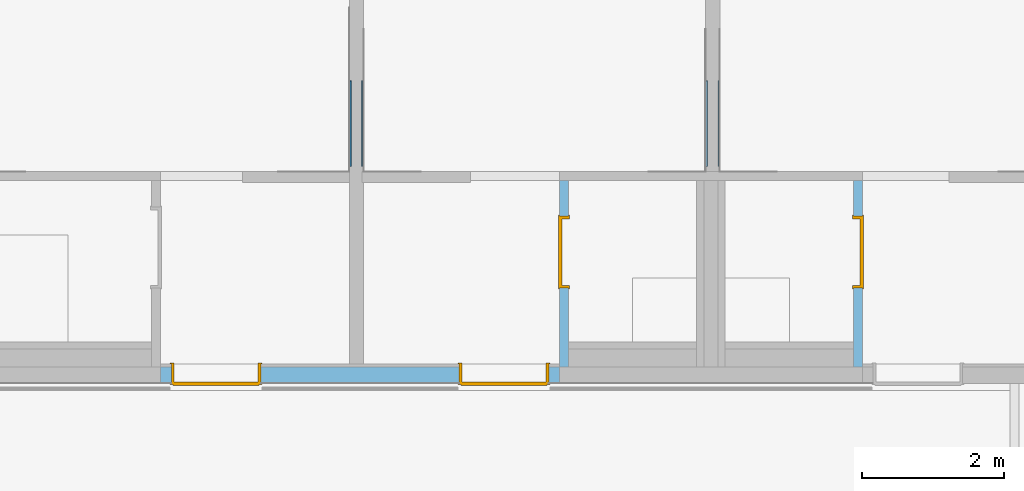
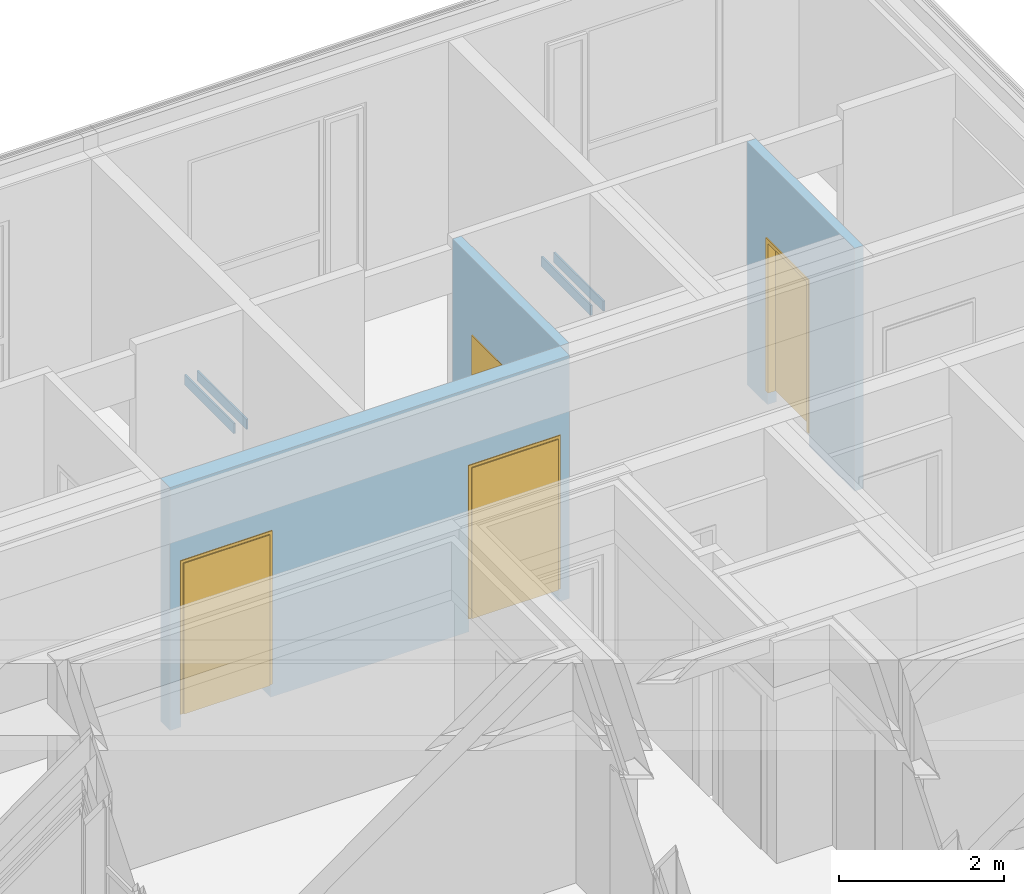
# One storey, part 150 of 207: 4 doors, 4 walls, 4 openings, plus 3 elements that do not belong to this part.
"""IFC4 building model written with IfcOpenShell, lengths in metres."""

import ifcopenshell
import ifcopenshell.guid

model = None  # the IFC model being written
_history = None  # IfcOwnerHistory: only IFC2X3 demands one
_inside = {}  # id of a spatial element -> (the spatial element, [elements in it])
_under = {}  # id of a project, library or spatial element -> (it, [spatial elements below it])
_declared = {}  # id of a project -> (the project, [libraries it declares])
_typed = {}  # id of a type object -> (the type object, [elements of that type])
_made_of = {}  # id of a material, layer set ... -> (it, [elements and type objects made of it])


def new_model(schema):
    """Start an empty IFC model of exactly this schema.

    Asked for "IFC4X3", IfcOpenShell would pick the latest addendum, in which some entities
    have other attributes; the version numbers below select the first issue.
    IFC2X3 requires an IfcOwnerHistory on every rooted entity: one is made here for all.
    """
    global model, _history
    if schema == "IFC4X3":
        model = ifcopenshell.file(schema_version=(4, 3, 0, 0))
    else:
        model = ifcopenshell.file(schema=schema)
    _inside.clear()
    _under.clear()
    _declared.clear()
    _typed.clear()
    _made_of.clear()
    _history = None
    if model.schema == "IFC2X3":
        org = make("IfcOrganization", Name="unknown")
        user = make(
            "IfcPersonAndOrganization",
            ThePerson=make("IfcPerson", FamilyName="unknown"),
            TheOrganization=org,
        )
        app = make(
            "IfcApplication",
            ApplicationDeveloper=org,
            Version="unknown",
            ApplicationFullName="unknown",
            ApplicationIdentifier="unknown",
        )
        _history = make(
            "IfcOwnerHistory",
            OwningUser=user,
            OwningApplication=app,
            ChangeAction="ADDED",
            CreationDate=0,
        )
    return model


def make(cls, **values):
    """One entity of the class cls with the attributes given. An attribute that is None is left unset."""
    return model.create_entity(
        cls, **{name: value for name, value in values.items() if value is not None}
    )


def entity(cls, *values):
    """Any entity or typed value of the class cls, its attributes in the order of the schema. None: left unset."""
    e = model.create_entity(cls)
    for i, value in enumerate(values):
        if value is not None:
            e[i] = value
    return e


def rooted(cls, **values):
    """An entity with a GlobalId (a new one), such as an element, a storey or a relation."""
    return make(cls, GlobalId=ifcopenshell.guid.new(), OwnerHistory=_history, **values)


def si_unit(unit_type, name, prefix=None):
    """IfcSIUnit, for example si_unit("LENGTHUNIT", "METRE", prefix="MILLI")."""
    return make("IfcSIUnit", UnitType=unit_type, Prefix=prefix, Name=name)


def converted_unit(unit_type, name, factor, base, dimensions=None, offset=None):
    """IfcConversionBasedUnit, such as the inch: factor (a typed value) times the base unit."""
    return make(
        "IfcConversionBasedUnit"
        if offset is None
        else "IfcConversionBasedUnitWithOffset",
        ConversionOffset=offset,
        Dimensions=None
        if dimensions is None
        else entity("IfcDimensionalExponents", *dimensions),
        UnitType=unit_type,
        Name=name,
        ConversionFactor=make(
            "IfcMeasureWithUnit", ValueComponent=factor, UnitComponent=base
        ),
    )


def derived_unit(unit_type, elements):
    """IfcDerivedUnit: a product of units, each with its exponent."""
    return make(
        "IfcDerivedUnit",
        Elements=[
            make("IfcDerivedUnitElement", Unit=unit, Exponent=power)
            for unit, power in elements
        ],
        UnitType=unit_type,
    )


def assignment(units):
    """IfcUnitAssignment: the units of a project."""
    return None if units is None else make("IfcUnitAssignment", Units=units)


def point(xyz):
    """IfcCartesianPoint."""
    return None if xyz is None else make("IfcCartesianPoint", Coordinates=xyz)


def direction(xyz):
    """IfcDirection."""
    return None if xyz is None else make("IfcDirection", DirectionRatios=xyz)


def frame(location, z_axis=None, x_axis=None):
    """IfcAxis2Placement3D, a coordinate frame: its origin and axes. An axis left out is left unset."""
    return make(
        "IfcAxis2Placement3D",
        Location=point(location),
        Axis=direction(z_axis),
        RefDirection=direction(x_axis),
    )


def frame_2d(location, x_axis=None):
    """IfcAxis2Placement2D, a coordinate frame in the plane: its origin and x axis."""
    return make(
        "IfcAxis2Placement2D", Location=point(location), RefDirection=direction(x_axis)
    )


def origin():
    """The frame at (0, 0, 0) with its axes left unset."""
    return frame((0.0, 0.0, 0.0))


def origin_with_axes():
    """The frame at (0, 0, 0) with the z axis (0, 0, 1) and the x axis (1, 0, 0) written out."""
    return frame((0.0, 0.0, 0.0), z_axis=(0.0, 0.0, 1.0), x_axis=(1.0, 0.0, 0.0))


def place(relative_to, where):
    """IfcLocalPlacement: puts the frame where relative to a parent placement (None: the world)."""
    return make(
        "IfcLocalPlacement", PlacementRelTo=relative_to, RelativePlacement=where
    )


def context(
    kind, dimensions, precision=None, world=None, true_north=None, identifier=None
):
    """IfcGeometricRepresentationContext, for example the 3D "Model" context."""
    return make(
        "IfcGeometricRepresentationContext",
        ContextIdentifier=identifier,
        ContextType=kind,
        CoordinateSpaceDimension=dimensions,
        Precision=precision,
        WorldCoordinateSystem=world,
        TrueNorth=true_north,
    )


def subcontext(parent, identifier, kind, view, scale=None):
    """IfcGeometricRepresentationSubContext, for example "Body" below "Model"."""
    return make(
        "IfcGeometricRepresentationSubContext",
        ContextIdentifier=identifier,
        ContextType=kind,
        ParentContext=parent,
        TargetScale=scale,
        TargetView=view,
    )


def project(units=None, contexts=None):
    """IfcProject with its units and contexts."""
    return rooted(
        "IfcProject",
        Name="project",
        RepresentationContexts=contexts,
        UnitsInContext=assignment(units),
    )


def spatial(cls, under=None, at=None, **own):
    """A site, building, storey or space (cls), placed at a placement, below another one or the project."""
    s = rooted(cls, ObjectPlacement=at, **own)
    if under is not None:
        _under.setdefault(under.id(), (under, []))[1].append(s)
    return s


def polyline(points):
    """IfcPolyline through the points."""
    return make("IfcPolyline", Points=[point(p) for p in points])


def profile(cls, at=None, kind="AREA", **sizes):
    """A parametric profile (cls). Its sizes go by their IFC names, for example OverallWidth=200.0."""
    return make(cls, ProfileType=kind, Position=at, **sizes)


def rectangle(**sizes):
    """IfcRectangleProfileDef."""
    return profile("IfcRectangleProfileDef", **sizes)


def outline(outer, holes=None, kind="AREA"):
    """IfcArbitraryClosedProfileDef: a profile drawn as a closed curve; with holes, ...WithVoids."""
    if holes is None:
        return make("IfcArbitraryClosedProfileDef", ProfileType=kind, OuterCurve=outer)
    return make(
        "IfcArbitraryProfileDefWithVoids",
        ProfileType=kind,
        OuterCurve=outer,
        InnerCurves=holes,
    )


def extrude(swept, where, along, depth):
    """IfcExtrudedAreaSolid: the profile swept, set in the frame where, extruded along a direction by depth."""
    return make(
        "IfcExtrudedAreaSolid",
        SweptArea=swept,
        Position=where,
        ExtrudedDirection=direction(along),
        Depth=depth,
    )


def faces_of(points, faces, orient=None, outer=None):
    """IfcFace entities. A face is a list of loops; a loop is a list of indices into points, from 0.

    orient and outer hold one flag for each loop. By default every Orientation is true, the
    first loop of a face is its IfcFaceOuterBound and the others are IfcFaceBound.
    """
    made = []
    for i, loops in enumerate(faces):
        bounds = []
        for j, loop in enumerate(loops):
            is_outer = j == 0 if outer is None else outer[i][j]
            bounds.append(
                make(
                    "IfcFaceOuterBound" if is_outer else "IfcFaceBound",
                    Bound=make("IfcPolyLoop", Polygon=[points[k] for k in loop]),
                    Orientation=True if orient is None else orient[i][j],
                )
            )
        made.append(make("IfcFace", Bounds=bounds))
    return made


def faceted_brep(points, faces, orient=None, outer=None, voids=None):
    """IfcFacetedBrep: a solid bounded by flat faces; with voids (closed shells), ...WithVoids."""
    shared = [point(p) for p in points]
    hull = make("IfcClosedShell", CfsFaces=faces_of(shared, faces, orient, outer))
    if voids is None:
        return make("IfcFacetedBrep", Outer=hull)
    return make(
        "IfcFacetedBrepWithVoids",
        Outer=hull,
        Voids=[
            make(cls, CfsFaces=faces_of(shared, fs, o, b)) for cls, fs, o, b in voids
        ],
    )


def shape(context_of_items, identifier, shape_type, items):
    """IfcShapeRepresentation: the items that make up one representation, for example the "Body"."""
    return make(
        "IfcShapeRepresentation",
        ContextOfItems=context_of_items,
        RepresentationIdentifier=identifier,
        RepresentationType=shape_type,
        Items=items,
    )


def source(mapping_origin, context_of_items, identifier, shape_type, items):
    """IfcRepresentationMap: a shape defined once, which mapped items show again and again."""
    return make(
        "IfcRepresentationMap",
        MappingOrigin=mapping_origin,
        MappedRepresentation=shape(context_of_items, identifier, shape_type, items),
    )


def transform(
    local_origin,
    x_axis=None,
    y_axis=None,
    z_axis=None,
    scale=None,
    scale2=None,
    scale3=None,
    uniform=True,
):
    """IfcCartesianTransformationOperator3D, or its non-uniform kind. x_axis, y_axis, z_axis: its Axis1, 2, 3."""
    if uniform:
        return make(
            "IfcCartesianTransformationOperator3D",
            Axis1=direction(x_axis),
            Axis2=direction(y_axis),
            LocalOrigin=point(local_origin),
            Scale=scale,
            Axis3=direction(z_axis),
        )
    return make(
        "IfcCartesianTransformationOperator3DnonUniform",
        Axis1=direction(x_axis),
        Axis2=direction(y_axis),
        LocalOrigin=point(local_origin),
        Scale=scale,
        Axis3=direction(z_axis),
        Scale2=scale2,
        Scale3=scale3,
    )


def mapped(mapping_source, mapping_target):
    """IfcMappedItem: shows the shape of a source again, moved by a transform."""
    return make(
        "IfcMappedItem", MappingSource=mapping_source, MappingTarget=mapping_target
    )


def material(Name=None, Category=None):
    """IfcMaterial."""
    return make("IfcMaterial", Name=Name, Category=Category)


def made_of(thing, what):
    """Note that an element or type object is made of a material, layer set ...; save() writes the relation."""
    if what is not None:
        _made_of.setdefault(what.id(), (what, []))[1].append(thing)
    return thing


def type_object(cls, material=None, **own):
    """A type object (cls), such as IfcWallType, which elements share."""
    return made_of(rooted(cls, **own), material)


def element(
    cls,
    number,
    at=None,
    inside=None,
    cuts=None,
    type_object=None,
    material=None,
    context=None,
    identifier="Body",
    shape_type=None,
    held_by="IfcProductDefinitionShape",
    body=None,
    shapes=None,
    **own,
):
    """One element of the class cls, such as IfcWall. Its Tag is "e" and its number.

    at: its placement. inside: the storey or other place that contains it. cuts: it is an
    opening in that element (IfcRelVoidsElement). A single representation is given by context,
    identifier, shape_type and body (its items); several are given by shapes. held_by: the class
    of the entity that holds the representations. save() writes the other relations.
    """
    e = rooted(cls, Tag="e%d" % number, ObjectPlacement=at, **own)
    if body is not None:
        shapes = [shape(context, identifier, shape_type, body)]
    if shapes is not None:
        e.Representation = make(held_by, Representations=shapes)
    if inside is not None:
        _inside.setdefault(inside.id(), (inside, []))[1].append(e)
    if cuts is not None:
        rooted(
            "IfcRelVoidsElement", RelatingBuildingElement=cuts, RelatedOpeningElement=e
        )
    if type_object is not None:
        _typed.setdefault(type_object.id(), (type_object, []))[1].append(e)
    return made_of(e, material)


def fill(opening, filler):
    """IfcRelFillsElement: the door or window that sits in an opening."""
    return rooted(
        "IfcRelFillsElement",
        RelatingOpeningElement=opening,
        RelatedBuildingElement=filler,
    )


def aggregate(whole, parts):
    """IfcRelAggregates: a whole, such as a stair, and the parts it consists of."""
    return rooted("IfcRelAggregates", RelatingObject=whole, RelatedObjects=parts)


def save(model, path):
    """Write the relations noted so far, then the file.

    IfcRelAggregates (storeys below a building ...), IfcRelContainedInSpatialStructure (elements
    in a storey), IfcRelDefinesByType, IfcRelAssociatesMaterial and IfcRelDeclares: one each for
    every whole, place, type object, material and project.
    """
    for whole, parts in _under.values():
        aggregate(whole, parts)
    for where, things in _inside.values():
        rooted(
            "IfcRelContainedInSpatialStructure",
            RelatedElements=things,
            RelatingStructure=where,
        )
    for kind, things in _typed.values():
        rooted("IfcRelDefinesByType", RelatedObjects=things, RelatingType=kind)
    for what, things in _made_of.values():
        rooted("IfcRelAssociatesMaterial", RelatedObjects=things, RelatingMaterial=what)
    for by, libraries in _declared.values():
        rooted("IfcRelDeclares", RelatingContext=by, RelatedDefinitions=libraries)
    model.write(path)


model = new_model("IFC4")

# Units and contexts
model_context = context("Model", 3, precision=1e-05, world=origin())
body_context = subcontext(model_context, "Body", "Model", "MODEL_VIEW")
ifc_project = project(units=[si_unit("LENGTHUNIT", "METRE"), si_unit("AREAUNIT", "SQUARE_METRE"), si_unit("VOLUMEUNIT", "CUBIC_METRE"), si_unit("MASSUNIT", "GRAM", prefix="KILO"), converted_unit("PLANEANGLEUNIT", "DEGREE", entity("IfcPlaneAngleMeasure", 0.0174532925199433), si_unit("PLANEANGLEUNIT", "RADIAN"), dimensions=[0, 0, 0, 0, 0, 0, 0]), derived_unit("THERMALTRANSMITTANCEUNIT", [(si_unit("POWERUNIT", "WATT"), 1), (si_unit("THERMODYNAMICTEMPERATUREUNIT", "KELVIN"), -1), (si_unit("LENGTHUNIT", "METRE"), -2)]), derived_unit("VOLUMETRICFLOWRATEUNIT", [(si_unit("LENGTHUNIT", "METRE"), 3), (converted_unit("TIMEUNIT", "hour", entity("IfcTimeMeasure", 3600.0), si_unit("TIMEUNIT", "SECOND"), dimensions=[0, 0, 1, 0, 0, 0, 0]), -1), (si_unit("LENGTHUNIT", "METRE"), -1)])], contexts=[model_context])

# Site, building, storey
site_placement = place(None, origin())
site = spatial("IfcSite", under=ifc_project, at=site_placement, Name="Psychiatrie Neubau Wunstorf", CompositionType="ELEMENT")
building_placement = place(site_placement, origin())
building = spatial("IfcBuilding", under=site, at=building_placement, Name="Neubau H2 Stationsgebäude", CompositionType="ELEMENT")
storey_placement = place(building_placement, frame((0.0, 0.0, -0.2)))
storey = spatial("IfcBuildingStorey", under=building, at=storey_placement, Name="H2 Ebene 0", CompositionType="ELEMENT", Elevation=-0.2)

# Walls
for number, where, name in (
    (1, (96.075, 28.1628, 1.625), "WV 1.1"),
    (2, (101.075, 28.1628, 1.625), "WV 1.1"),
    (3, (100.9, 28.1628, 1.625), "WV 1.1"),
    (4, (95.9, 28.1628, 1.625), "WV 1.1"),
):
    element("IfcWall", number, at=place(storey_placement, frame(where)), inside=storey, Name=name, context=body_context, shape_type="Brep", body=[
        faceted_brep([(0.025, 1.2, 0.0), (0.0, 1.2, 0.0), (0.0, 0.0, 0.0), (0.025, 0.0, 0.0), (0.0, 1.2, 0.15), (0.025, 1.2, 0.15), (0.025, 0.0, 0.15), (0.0, 0.0, 0.15)], [[[0, 1, 2, 3]], [[4, 5, 6, 7]], [[1, 0, 5, 4]], [[2, 1, 4, 7]], [[3, 2, 7, 6]], [[0, 3, 6, 5]]], orient=[[False], [False], [False], [False], [False], [False]]),
    ])

# Wall, openings, doors
ifc_material_1 = material(Name="WI-HW 60")
wall_1_placement = place(storey_placement, frame((93.25, 25.1175, 0.0)))
wall_1 = element("IfcWall", 5, at=wall_1_placement, inside=storey, material=ifc_material_1, context=body_context, shape_type="SweptSolid", body=[
    extrude(rectangle(XDim=5.6, YDim=0.232, at=frame_2d((2.8, 0.116), x_axis=(1.0, 0.0))), origin_with_axes(), (0.0, 0.0, 1.0), 3.6),
])
opening_1_placement = place(wall_1_placement, frame((4.19, 0.0, 0.0), z_axis=(0.0, 1.0, 0.0), x_axis=(0.0, 0.0, 1.0)))
opening_1 = element("IfcOpeningElement", 6, at=opening_1_placement, cuts=wall_1, Name="Türöffnung", ObjectType="Opening", context=body_context, shape_type="SweptSolid", body=[
    extrude(outline(polyline([(2.46, 1.26), (2.46, 0.0), (0.0, 0.0), (0.0, 1.26), (2.46, 1.26)])), origin_with_axes(), (0.0, 0.0, 1.0), 0.232),
])
opening_2_placement = place(wall_1_placement, frame((0.15, 0.0, 0.0), z_axis=(0.0, 1.0, 0.0), x_axis=(0.0, 0.0, 1.0)))
opening_2 = element("IfcOpeningElement", 7, at=opening_2_placement, cuts=wall_1, Name="Türöffnung", ObjectType="Opening", context=body_context, shape_type="SweptSolid", body=[
    extrude(outline(polyline([(2.46, 1.26), (2.46, 0.0), (0.0, 0.0), (0.0, 1.26), (2.46, 1.26)])), origin_with_axes(), (0.0, 0.0, 1.0), 0.232),
])
ifc_material_2 = material(Name="TI-2F-UZ-D")
door_type_1 = type_object("IfcDoorType", Name="SMT", OperationType="DOUBLE_DOOR_SINGLE_SWING", ParameterTakesPrecedence=False, PredefinedType="DOOR")
shared_shape_1 = source(origin_with_axes(), body_context, "Body", "Brep", [
    faceted_brep([(1.26, -0.015, 2.46), (1.26, -0.015, 0.2), (1.22, -0.015, 0.2), (1.22, -0.015, 2.46), (1.26, 0.287, 0.2), (1.26, 0.287, 2.46), (1.22, 0.287, 2.46), (1.22, 0.287, 0.2)], [[[0, 1, 2, 3]], [[4, 5, 6, 7]], [[1, 0, 5, 4]], [[2, 1, 4, 7]], [[3, 2, 7, 6]], [[0, 3, 6, 5]]], orient=[[False], [False], [False], [False], [False], [False]]),
    faceted_brep([(1.26, -0.015, 2.475), (1.275, -0.015, 2.475), (1.275, -0.015, 0.2), (1.26, -0.015, 0.2), (1.26, 0.0, 0.2), (1.275, 0.0, 0.2), (1.275, 0.0, 2.475), (1.26, 0.0, 2.475)], [[[0, 1, 2, 3]], [[4, 5, 6, 7]], [[3, 4, 7, 0]], [[2, 5, 4, 3]], [[1, 6, 5, 2]], [[0, 7, 6, 1]]], orient=[[False], [False], [False], [False], [False], [False]]),
    faceted_brep([(1.26, 0.272, 2.475), (1.275, 0.272, 2.475), (1.275, 0.272, 0.2), (1.26, 0.272, 0.2), (1.26, 0.287, 0.2), (1.275, 0.287, 0.2), (1.275, 0.287, 2.475), (1.26, 0.287, 2.475)], [[[0, 1, 2, 3]], [[4, 5, 6, 7]], [[3, 4, 7, 0]], [[2, 5, 4, 3]], [[1, 6, 5, 2]], [[0, 7, 6, 1]]], orient=[[False], [False], [False], [False], [False], [False]]),
    faceted_brep([(0.04, -0.015, 2.46), (0.04, -0.015, 0.2), (0.0, -0.015, 0.2), (0.0, -0.015, 2.46), (0.04, 0.287, 0.2), (0.04, 0.287, 2.46), (0.0, 0.287, 2.46), (0.0, 0.287, 0.2)], [[[0, 1, 2, 3]], [[4, 5, 6, 7]], [[1, 0, 5, 4]], [[2, 1, 4, 7]], [[3, 2, 7, 6]], [[0, 3, 6, 5]]], orient=[[False], [False], [False], [False], [False], [False]]),
    faceted_brep([(0.0, -0.015, 2.475), (0.0, -0.015, 0.2), (-0.015, -0.015, 0.2), (-0.015, -0.015, 2.475), (0.0, 0.0, 0.2), (0.0, 0.0, 2.475), (-0.015, 0.0, 2.475), (-0.015, 0.0, 0.2)], [[[0, 1, 2, 3]], [[4, 5, 6, 7]], [[1, 0, 5, 4]], [[2, 1, 4, 7]], [[3, 2, 7, 6]], [[0, 3, 6, 5]]], orient=[[False], [False], [False], [False], [False], [False]]),
    faceted_brep([(0.0, 0.272, 2.475), (0.0, 0.272, 0.2), (-0.015, 0.272, 0.2), (-0.015, 0.272, 2.475), (0.0, 0.287, 0.2), (0.0, 0.287, 2.475), (-0.015, 0.287, 2.475), (-0.015, 0.287, 0.2)], [[[0, 1, 2, 3]], [[4, 5, 6, 7]], [[1, 0, 5, 4]], [[2, 1, 4, 7]], [[3, 2, 7, 6]], [[0, 3, 6, 5]]], orient=[[False], [False], [False], [False], [False], [False]]),
    faceted_brep([(1.22, -0.015, 2.46), (1.22, -0.015, 2.42), (0.04, -0.015, 2.42), (0.04, -0.015, 2.46), (1.22, 0.287, 2.42), (1.22, 0.287, 2.46), (0.04, 0.287, 2.46), (0.04, 0.287, 2.42)], [[[0, 1, 2, 3]], [[4, 5, 6, 7]], [[1, 0, 5, 4]], [[2, 1, 4, 7]], [[3, 2, 7, 6]], [[0, 3, 6, 5]]], orient=[[False], [False], [False], [False], [False], [False]]),
    faceted_brep([(1.26, -0.015, 2.475), (1.26, -0.015, 2.46), (0.0, -0.015, 2.46), (0.0, -0.015, 2.475), (1.26, 0.0, 2.46), (1.26, 0.0, 2.475), (0.0, 0.0, 2.475), (0.0, 0.0, 2.46)], [[[0, 1, 2, 3]], [[4, 5, 6, 7]], [[1, 0, 5, 4]], [[2, 1, 4, 7]], [[3, 2, 7, 6]], [[0, 3, 6, 5]]], orient=[[False], [False], [False], [False], [False], [False]]),
    faceted_brep([(1.26, 0.272, 2.475), (1.26, 0.272, 2.46), (0.0, 0.272, 2.46), (0.0, 0.272, 2.475), (1.26, 0.287, 2.46), (1.26, 0.287, 2.475), (0.0, 0.287, 2.475), (0.0, 0.287, 2.46)], [[[0, 1, 2, 3]], [[4, 5, 6, 7]], [[1, 0, 5, 4]], [[2, 1, 4, 7]], [[3, 2, 7, 6]], [[0, 3, 6, 5]]], orient=[[False], [False], [False], [False], [False], [False]]),
    faceted_brep([(1.235, 0.252, 2.435), (1.235, 0.252, 0.2), (0.335, 0.252, 0.2), (0.335, 0.252, 2.435), (1.235, 0.302, 0.2), (1.235, 0.302, 2.435), (0.335, 0.302, 2.435), (0.335, 0.302, 0.2)], [[[0, 1, 2, 3]], [[4, 5, 6, 7]], [[1, 0, 5, 4]], [[2, 1, 4, 7]], [[3, 2, 7, 6]], [[0, 3, 6, 5]]], orient=[[False], [False], [False], [False], [False], [False]]),
    faceted_brep([(0.334, 0.252, 2.435), (0.334, 0.252, 0.2), (0.025, 0.252, 0.2), (0.025, 0.252, 2.435), (0.334, 0.302, 0.2), (0.334, 0.302, 2.435), (0.025, 0.302, 2.435), (0.025, 0.302, 0.2)], [[[0, 1, 2, 3]], [[4, 5, 6, 7]], [[1, 0, 5, 4]], [[2, 1, 4, 7]], [[3, 2, 7, 6]], [[0, 3, 6, 5]]], orient=[[False], [False], [False], [False], [False], [False]]),
])
door_1_placement = place(opening_1_placement, frame((0.0, 1.26, 0.272), z_axis=(1.0, 0.0, 0.0), x_axis=(0.0, -1.0, 0.0)))
door_1 = element("IfcDoor", 8, at=door_1_placement, inside=storey, type_object=door_type_1, material=ifc_material_2, Name="SMT", OverallHeight=2.46, OverallWidth=1.26, context=body_context, shape_type="MappedRepresentation", body=[
    mapped(shared_shape_1, transform((0.0, 0.0, 0.0), x_axis=(1.0, 0.0, 0.0), y_axis=(0.0, 1.0, 0.0), z_axis=(0.0, 0.0, 1.0), scale=1.0)),
])
fill(opening_1, door_1)
ifc_material_3 = material(Name="TI-2F-UZ-D")
door_type_2 = type_object("IfcDoorType", Name="SMT", OperationType="DOUBLE_DOOR_SINGLE_SWING", ParameterTakesPrecedence=False, PredefinedType="DOOR")
shared_shape_2 = source(origin_with_axes(), body_context, "Body", "Brep", [
    faceted_brep([(0.0, -0.015, 2.46), (0.04, -0.015, 2.46), (0.04, -0.015, 0.2), (0.0, -0.015, 0.2), (0.0, 0.287, 0.2), (0.04, 0.287, 0.2), (0.04, 0.287, 2.46), (0.0, 0.287, 2.46)], [[[0, 1, 2, 3]], [[4, 5, 6, 7]], [[3, 4, 7, 0]], [[2, 5, 4, 3]], [[1, 6, 5, 2]], [[0, 7, 6, 1]]], orient=[[False], [False], [False], [False], [False], [False]]),
    faceted_brep([(0.0, -0.015, 2.475), (0.0, -0.015, 0.2), (-0.015, -0.015, 0.2), (-0.015, -0.015, 2.475), (0.0, 0.0, 0.2), (0.0, 0.0, 2.475), (-0.015, 0.0, 2.475), (-0.015, 0.0, 0.2)], [[[0, 1, 2, 3]], [[4, 5, 6, 7]], [[1, 0, 5, 4]], [[2, 1, 4, 7]], [[3, 2, 7, 6]], [[0, 3, 6, 5]]], orient=[[False], [False], [False], [False], [False], [False]]),
    faceted_brep([(0.0, 0.272, 2.475), (0.0, 0.272, 0.2), (-0.015, 0.272, 0.2), (-0.015, 0.272, 2.475), (0.0, 0.287, 0.2), (0.0, 0.287, 2.475), (-0.015, 0.287, 2.475), (-0.015, 0.287, 0.2)], [[[0, 1, 2, 3]], [[4, 5, 6, 7]], [[1, 0, 5, 4]], [[2, 1, 4, 7]], [[3, 2, 7, 6]], [[0, 3, 6, 5]]], orient=[[False], [False], [False], [False], [False], [False]]),
    faceted_brep([(1.22, -0.015, 2.46), (1.26, -0.015, 2.46), (1.26, -0.015, 0.2), (1.22, -0.015, 0.2), (1.22, 0.287, 0.2), (1.26, 0.287, 0.2), (1.26, 0.287, 2.46), (1.22, 0.287, 2.46)], [[[0, 1, 2, 3]], [[4, 5, 6, 7]], [[3, 4, 7, 0]], [[2, 5, 4, 3]], [[1, 6, 5, 2]], [[0, 7, 6, 1]]], orient=[[False], [False], [False], [False], [False], [False]]),
    faceted_brep([(1.26, -0.015, 2.475), (1.275, -0.015, 2.475), (1.275, -0.015, 0.2), (1.26, -0.015, 0.2), (1.26, 0.0, 0.2), (1.275, 0.0, 0.2), (1.275, 0.0, 2.475), (1.26, 0.0, 2.475)], [[[0, 1, 2, 3]], [[4, 5, 6, 7]], [[3, 4, 7, 0]], [[2, 5, 4, 3]], [[1, 6, 5, 2]], [[0, 7, 6, 1]]], orient=[[False], [False], [False], [False], [False], [False]]),
    faceted_brep([(1.26, 0.272, 2.475), (1.275, 0.272, 2.475), (1.275, 0.272, 0.2), (1.26, 0.272, 0.2), (1.26, 0.287, 0.2), (1.275, 0.287, 0.2), (1.275, 0.287, 2.475), (1.26, 0.287, 2.475)], [[[0, 1, 2, 3]], [[4, 5, 6, 7]], [[3, 4, 7, 0]], [[2, 5, 4, 3]], [[1, 6, 5, 2]], [[0, 7, 6, 1]]], orient=[[False], [False], [False], [False], [False], [False]]),
    faceted_brep([(0.04, -0.015, 2.46), (1.22, -0.015, 2.46), (1.22, -0.015, 2.42), (0.04, -0.015, 2.42), (0.04, 0.287, 2.42), (1.22, 0.287, 2.42), (1.22, 0.287, 2.46), (0.04, 0.287, 2.46)], [[[0, 1, 2, 3]], [[4, 5, 6, 7]], [[3, 4, 7, 0]], [[2, 5, 4, 3]], [[1, 6, 5, 2]], [[0, 7, 6, 1]]], orient=[[False], [False], [False], [False], [False], [False]]),
    faceted_brep([(0.0, -0.015, 2.475), (1.26, -0.015, 2.475), (1.26, -0.015, 2.46), (0.0, -0.015, 2.46), (0.0, 0.0, 2.46), (1.26, 0.0, 2.46), (1.26, 0.0, 2.475), (0.0, 0.0, 2.475)], [[[0, 1, 2, 3]], [[4, 5, 6, 7]], [[3, 4, 7, 0]], [[2, 5, 4, 3]], [[1, 6, 5, 2]], [[0, 7, 6, 1]]], orient=[[False], [False], [False], [False], [False], [False]]),
    faceted_brep([(0.0, 0.272, 2.475), (1.26, 0.272, 2.475), (1.26, 0.272, 2.46), (0.0, 0.272, 2.46), (0.0, 0.287, 2.46), (1.26, 0.287, 2.46), (1.26, 0.287, 2.475), (0.0, 0.287, 2.475)], [[[0, 1, 2, 3]], [[4, 5, 6, 7]], [[3, 4, 7, 0]], [[2, 5, 4, 3]], [[1, 6, 5, 2]], [[0, 7, 6, 1]]], orient=[[False], [False], [False], [False], [False], [False]]),
    faceted_brep([(0.025, 0.252, 2.435), (0.925, 0.252, 2.435), (0.925, 0.252, 0.2), (0.025, 0.252, 0.2), (0.025, 0.302, 0.2), (0.925, 0.302, 0.2), (0.925, 0.302, 2.435), (0.025, 0.302, 2.435)], [[[0, 1, 2, 3]], [[4, 5, 6, 7]], [[3, 4, 7, 0]], [[2, 5, 4, 3]], [[1, 6, 5, 2]], [[0, 7, 6, 1]]], orient=[[False], [False], [False], [False], [False], [False]]),
    faceted_brep([(0.926, 0.252, 2.435), (1.235, 0.252, 2.435), (1.235, 0.252, 0.2), (0.926, 0.252, 0.2), (0.926, 0.302, 0.2), (1.235, 0.302, 0.2), (1.235, 0.302, 2.435), (0.926, 0.302, 2.435)], [[[0, 1, 2, 3]], [[4, 5, 6, 7]], [[3, 4, 7, 0]], [[2, 5, 4, 3]], [[1, 6, 5, 2]], [[0, 7, 6, 1]]], orient=[[False], [False], [False], [False], [False], [False]]),
])
door_2_placement = place(opening_2_placement, frame((0.0, 1.26, 0.272), z_axis=(1.0, 0.0, 0.0), x_axis=(0.0, -1.0, 0.0)))
door_2 = element("IfcDoor", 9, at=door_2_placement, inside=storey, type_object=door_type_2, material=ifc_material_3, Name="SMT", OverallHeight=2.46, OverallWidth=1.26, context=body_context, shape_type="MappedRepresentation", body=[
    mapped(shared_shape_2, transform((0.0, 0.0, 0.0), x_axis=(1.0, 0.0, 0.0), y_axis=(0.0, 1.0, 0.0), z_axis=(0.0, 0.0, 1.0), scale=1.0)),
])
fill(opening_2, door_2)

# Wall, opening, door
ifc_material_4 = material(Name="WI-LB")
wall_2_placement = place(storey_placement, frame((98.85, 27.9645, 0.0), z_axis=(0.0, 0.0, 1.0), x_axis=(0.0, -1.0, 0.0)))
wall_2 = element("IfcWall", 10, at=wall_2_placement, inside=storey, material=ifc_material_4, context=body_context, shape_type="SweptSolid", body=[
    extrude(rectangle(XDim=2.615, YDim=0.125, at=frame_2d((1.3075, 0.0625), x_axis=(1.0, 0.0))), origin_with_axes(), (0.0, 0.0, 1.0), 3.6),
])
opening_3_placement = place(wall_2_placement, frame((1.51, 0.125, 0.0), z_axis=(0.0, -1.0, 0.0), x_axis=(0.0, 0.0, 1.0)))
opening_3 = element("IfcOpeningElement", 11, at=opening_3_placement, cuts=wall_2, Name="Türöffnung", ObjectType="Opening", context=body_context, shape_type="SweptSolid", body=[
    extrude(outline(polyline([(2.46, 1.01), (2.46, 0.0), (0.0, 0.0), (0.0, 1.01), (2.46, 1.01)])), origin_with_axes(), (0.0, 0.0, 1.0), 0.125),
])
ifc_material_5 = material(Name="TI-1F-UZ-D-N")
door_type_3 = type_object("IfcDoorType", Name="SMT", OperationType="SINGLE_SWING_RIGHT", ParameterTakesPrecedence=False, PredefinedType="DOOR")
shared_shape_3 = source(origin_with_axes(), body_context, "Body", "Brep", [
    faceted_brep([(1.04999999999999, 0.0125000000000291, 0.0), (1.04999999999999, 0.112500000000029, 0.0), (1.00999999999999, 0.112500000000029, 0.0), (1.00999999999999, 0.0125000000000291, 0.0), (1.04999999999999, 0.112500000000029, 3.6), (1.04999999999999, 0.0125000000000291, 3.6), (1.00999999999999, 0.0125000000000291, 3.6), (1.00999999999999, 0.112500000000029, 3.6)], [[[0, 1, 2, 3]], [[4, 5, 6, 7]], [[1, 0, 5, 4]], [[2, 1, 4, 7]], [[3, 2, 7, 6]], [[0, 3, 6, 5]]], orient=[[False], [False], [False], [False], [False], [False]]),
    faceted_brep([(0.0, 0.0125000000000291, 0.0), (0.0, 0.112500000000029, 0.0), (-0.0400000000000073, 0.112500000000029, 0.0), (-0.0400000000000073, 0.0125000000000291, 0.0), (0.0, 0.112500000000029, 3.6), (0.0, 0.0125000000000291, 3.6), (-0.0400000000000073, 0.0125000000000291, 3.6), (-0.0400000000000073, 0.112500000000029, 3.6)], [[[0, 1, 2, 3]], [[4, 5, 6, 7]], [[1, 0, 5, 4]], [[2, 1, 4, 7]], [[3, 2, 7, 6]], [[0, 3, 6, 5]]], orient=[[False], [False], [False], [False], [False], [False]]),
    faceted_brep([(1.00999999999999, 0.0125000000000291, 2.46), (1.00999999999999, 0.112500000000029, 2.46), (0.0, 0.112500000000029, 2.46), (0.0, 0.0125000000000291, 2.46), (1.00999999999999, 0.112500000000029, 2.5), (1.00999999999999, 0.0125000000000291, 2.5), (0.0, 0.0125000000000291, 2.5), (0.0, 0.112500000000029, 2.5)], [[[0, 1, 2, 3]], [[4, 5, 6, 7]], [[1, 0, 5, 4]], [[2, 1, 4, 7]], [[3, 2, 7, 6]], [[0, 3, 6, 5]]], orient=[[False], [False], [False], [False], [False], [False]]),
])
shared_shape_4 = source(origin_with_axes(), body_context, "Body", "Brep", [
    faceted_brep([(0.0, -0.0149999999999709, 2.46), (0.0399999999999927, -0.0149999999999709, 2.46), (0.0399999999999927, -0.0149999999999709, 0.2), (0.0, -0.0149999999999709, 0.2), (0.0, 0.140000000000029, 0.2), (0.0399999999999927, 0.140000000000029, 0.2), (0.0399999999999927, 0.140000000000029, 2.46), (0.0, 0.140000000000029, 2.46)], [[[0, 1, 2, 3]], [[4, 5, 6, 7]], [[3, 4, 7, 0]], [[2, 5, 4, 3]], [[1, 6, 5, 2]], [[0, 7, 6, 1]]], orient=[[False], [False], [False], [False], [False], [False]]),
    faceted_brep([(0.0, -0.0149999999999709, 2.475), (0.0, -0.0149999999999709, 0.2), (-0.0150000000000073, -0.0149999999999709, 0.2), (-0.0150000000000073, -0.0149999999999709, 2.475), (0.0, 0.0, 0.2), (0.0, 0.0, 2.475), (-0.0150000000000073, 0.0, 2.475), (-0.0150000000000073, 0.0, 0.2)], [[[0, 1, 2, 3]], [[4, 5, 6, 7]], [[1, 0, 5, 4]], [[2, 1, 4, 7]], [[3, 2, 7, 6]], [[0, 3, 6, 5]]], orient=[[False], [False], [False], [False], [False], [False]]),
    faceted_brep([(0.0, 0.125000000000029, 2.475), (0.0, 0.125000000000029, 0.2), (-0.0150000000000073, 0.125000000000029, 0.2), (-0.0150000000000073, 0.125000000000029, 2.475), (0.0, 0.140000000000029, 0.2), (0.0, 0.140000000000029, 2.475), (-0.0150000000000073, 0.140000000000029, 2.475), (-0.0150000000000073, 0.140000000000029, 0.2)], [[[0, 1, 2, 3]], [[4, 5, 6, 7]], [[1, 0, 5, 4]], [[2, 1, 4, 7]], [[3, 2, 7, 6]], [[0, 3, 6, 5]]], orient=[[False], [False], [False], [False], [False], [False]]),
    faceted_brep([(0.969999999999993, -0.0149999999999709, 2.46), (1.00999999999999, -0.0149999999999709, 2.46), (1.00999999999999, -0.0149999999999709, 0.2), (0.969999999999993, -0.0149999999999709, 0.2), (0.969999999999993, 0.140000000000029, 0.2), (1.00999999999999, 0.140000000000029, 0.2), (1.00999999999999, 0.140000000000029, 2.46), (0.969999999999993, 0.140000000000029, 2.46)], [[[0, 1, 2, 3]], [[4, 5, 6, 7]], [[3, 4, 7, 0]], [[2, 5, 4, 3]], [[1, 6, 5, 2]], [[0, 7, 6, 1]]], orient=[[False], [False], [False], [False], [False], [False]]),
    faceted_brep([(1.00999999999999, -0.0149999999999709, 2.475), (1.02499999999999, -0.0149999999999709, 2.475), (1.02499999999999, -0.0149999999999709, 0.2), (1.00999999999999, -0.0149999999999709, 0.2), (1.00999999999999, 0.0, 0.2), (1.02499999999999, 0.0, 0.2), (1.02499999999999, 0.0, 2.475), (1.00999999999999, 0.0, 2.475)], [[[0, 1, 2, 3]], [[4, 5, 6, 7]], [[3, 4, 7, 0]], [[2, 5, 4, 3]], [[1, 6, 5, 2]], [[0, 7, 6, 1]]], orient=[[False], [False], [False], [False], [False], [False]]),
    faceted_brep([(1.00999999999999, 0.125000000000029, 2.475), (1.02499999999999, 0.125000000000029, 2.475), (1.02499999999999, 0.125000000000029, 0.2), (1.00999999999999, 0.125000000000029, 0.2), (1.00999999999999, 0.140000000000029, 0.2), (1.02499999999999, 0.140000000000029, 0.2), (1.02499999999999, 0.140000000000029, 2.475), (1.00999999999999, 0.140000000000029, 2.475)], [[[0, 1, 2, 3]], [[4, 5, 6, 7]], [[3, 4, 7, 0]], [[2, 5, 4, 3]], [[1, 6, 5, 2]], [[0, 7, 6, 1]]], orient=[[False], [False], [False], [False], [False], [False]]),
    faceted_brep([(0.0399999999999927, -0.0149999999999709, 2.46), (0.969999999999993, -0.0149999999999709, 2.46), (0.969999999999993, -0.0149999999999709, 2.42), (0.0399999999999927, -0.0149999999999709, 2.42), (0.0399999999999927, 0.140000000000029, 2.42), (0.969999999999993, 0.140000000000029, 2.42), (0.969999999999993, 0.140000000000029, 2.46), (0.0399999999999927, 0.140000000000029, 2.46)], [[[0, 1, 2, 3]], [[4, 5, 6, 7]], [[3, 4, 7, 0]], [[2, 5, 4, 3]], [[1, 6, 5, 2]], [[0, 7, 6, 1]]], orient=[[False], [False], [False], [False], [False], [False]]),
    faceted_brep([(0.0, -0.0149999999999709, 2.475), (1.00999999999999, -0.0149999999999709, 2.475), (1.00999999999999, -0.0149999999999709, 2.46), (0.0, -0.0149999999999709, 2.46), (0.0, 0.0, 2.46), (1.00999999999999, 0.0, 2.46), (1.00999999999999, 0.0, 2.475), (0.0, 0.0, 2.475)], [[[0, 1, 2, 3]], [[4, 5, 6, 7]], [[3, 4, 7, 0]], [[2, 5, 4, 3]], [[1, 6, 5, 2]], [[0, 7, 6, 1]]], orient=[[False], [False], [False], [False], [False], [False]]),
    faceted_brep([(0.0, 0.125000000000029, 2.475), (1.00999999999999, 0.125000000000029, 2.475), (1.00999999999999, 0.125000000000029, 2.46), (0.0, 0.125000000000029, 2.46), (0.0, 0.140000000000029, 2.46), (1.00999999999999, 0.140000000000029, 2.46), (1.00999999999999, 0.140000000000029, 2.475), (0.0, 0.140000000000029, 2.475)], [[[0, 1, 2, 3]], [[4, 5, 6, 7]], [[3, 4, 7, 0]], [[2, 5, 4, 3]], [[1, 6, 5, 2]], [[0, 7, 6, 1]]], orient=[[False], [False], [False], [False], [False], [False]]),
    faceted_brep([(0.0249999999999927, 0.0910000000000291, 2.435), (0.984999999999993, 0.0910000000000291, 2.435), (0.984999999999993, 0.0910000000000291, 0.2), (0.0249999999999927, 0.0910000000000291, 0.2), (0.0249999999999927, 0.141000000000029, 0.2), (0.984999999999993, 0.141000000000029, 0.2), (0.984999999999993, 0.141000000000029, 2.435), (0.0249999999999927, 0.141000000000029, 2.435)], [[[0, 1, 2, 3]], [[4, 5, 6, 7]], [[3, 4, 7, 0]], [[2, 5, 4, 3]], [[1, 6, 5, 2]], [[0, 7, 6, 1]]], orient=[[False], [False], [False], [False], [False], [False]]),
])
door_3_placement = place(opening_3_placement, frame((0.0, 0.0, 0.0), z_axis=(1.0, 0.0, 0.0), x_axis=(0.0, 1.0, 0.0)))
door_3 = element("IfcDoor", 12, at=door_3_placement, inside=storey, type_object=door_type_3, material=ifc_material_5, Name="SMT", OverallHeight=2.46, OverallWidth=1.01, context=body_context, shape_type="MappedRepresentation", body=[
    mapped(shared_shape_3, transform((0.0, 0.0, 0.0), x_axis=(1.0, 0.0, 0.0), y_axis=(0.0, 1.0, 0.0), z_axis=(0.0, 0.0, 1.0), scale=1.0)),
    mapped(shared_shape_4, transform((0.0, 0.0, 0.0), x_axis=(1.0, 0.0, 0.0), y_axis=(0.0, 1.0, 0.0), z_axis=(0.0, 0.0, 1.0), scale=1.0)),
])
fill(opening_3, door_3)

ifc_material_6 = material(Name="WI-LB")
wall_3_placement = place(storey_placement, frame((102.975, 27.9645, 0.0), z_axis=(0.0, 0.0, 1.0), x_axis=(0.0, -1.0, 0.0)))
wall_3 = element("IfcWall", 13, at=wall_3_placement, inside=storey, material=ifc_material_6, context=body_context, shape_type="SweptSolid", body=[
    extrude(rectangle(XDim=2.61500000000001, YDim=0.125, at=frame_2d((1.3075, 0.0625), x_axis=(1.0, 0.0))), origin_with_axes(), (0.0, 0.0, 1.0), 3.6),
])
opening_4_placement = place(wall_3_placement, frame((0.5, 0.0, 0.0), z_axis=(0.0, 1.0, 0.0), x_axis=(0.0, 0.0, 1.0)))
opening_4 = element("IfcOpeningElement", 14, at=opening_4_placement, cuts=wall_3, Name="Türöffnung", ObjectType="Opening", context=body_context, shape_type="SweptSolid", body=[
    extrude(outline(polyline([(2.46, 1.01), (2.46, 0.0), (0.0, 0.0), (0.0, 1.01), (2.46, 1.01)])), origin_with_axes(), (0.0, 0.0, 1.0), 0.125),
])
ifc_material_7 = material(Name="TI-1F-UZ-D-N")
door_type_4 = type_object("IfcDoorType", Name="SMT", OperationType="SINGLE_SWING_RIGHT", ParameterTakesPrecedence=False, PredefinedType="DOOR")
shared_shape_5 = source(origin_with_axes(), body_context, "Body", "Brep", [
    faceted_brep([(-0.0399999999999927, 0.0124999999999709, 0.0), (0.0, 0.0124999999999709, 0.0), (0.0, 0.112499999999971, 0.0), (-0.0399999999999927, 0.112499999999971, 0.0), (-0.0399999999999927, 0.112499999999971, 3.6), (0.0, 0.112499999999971, 3.6), (0.0, 0.0124999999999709, 3.6), (-0.0399999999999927, 0.0124999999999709, 3.6)], [[[0, 1, 2, 3]], [[4, 5, 6, 7]], [[3, 4, 7, 0]], [[2, 5, 4, 3]], [[1, 6, 5, 2]], [[0, 7, 6, 1]]], orient=[[False], [False], [False], [False], [False], [False]]),
    faceted_brep([(1.01000000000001, 0.0124999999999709, 0.0), (1.05000000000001, 0.0124999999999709, 0.0), (1.05000000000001, 0.112499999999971, 0.0), (1.01000000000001, 0.112499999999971, 0.0), (1.01000000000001, 0.112499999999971, 3.6), (1.05000000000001, 0.112499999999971, 3.6), (1.05000000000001, 0.0124999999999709, 3.6), (1.01000000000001, 0.0124999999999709, 3.6)], [[[0, 1, 2, 3]], [[4, 5, 6, 7]], [[3, 4, 7, 0]], [[2, 5, 4, 3]], [[1, 6, 5, 2]], [[0, 7, 6, 1]]], orient=[[False], [False], [False], [False], [False], [False]]),
    faceted_brep([(0.0, 0.0124999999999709, 2.46), (1.01000000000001, 0.0124999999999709, 2.46), (1.01000000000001, 0.112499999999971, 2.46), (0.0, 0.112499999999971, 2.46), (0.0, 0.112499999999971, 2.5), (1.01000000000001, 0.112499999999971, 2.5), (1.01000000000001, 0.0124999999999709, 2.5), (0.0, 0.0124999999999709, 2.5)], [[[0, 1, 2, 3]], [[4, 5, 6, 7]], [[3, 4, 7, 0]], [[2, 5, 4, 3]], [[1, 6, 5, 2]], [[0, 7, 6, 1]]], orient=[[False], [False], [False], [False], [False], [False]]),
])
shared_shape_6 = source(origin_with_axes(), body_context, "Body", "Brep", [
    faceted_brep([(1.01000000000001, -0.0150000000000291, 2.46), (1.01000000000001, -0.0150000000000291, 0.2), (0.970000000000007, -0.0150000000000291, 0.2), (0.970000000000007, -0.0150000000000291, 2.46), (1.01000000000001, 0.139999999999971, 0.2), (1.01000000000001, 0.139999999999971, 2.46), (0.970000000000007, 0.139999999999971, 2.46), (0.970000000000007, 0.139999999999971, 0.2)], [[[0, 1, 2, 3]], [[4, 5, 6, 7]], [[1, 0, 5, 4]], [[2, 1, 4, 7]], [[3, 2, 7, 6]], [[0, 3, 6, 5]]], orient=[[False], [False], [False], [False], [False], [False]]),
    faceted_brep([(1.01000000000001, -0.0150000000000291, 2.475), (1.02500000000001, -0.0150000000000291, 2.475), (1.02500000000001, -0.0150000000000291, 0.2), (1.01000000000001, -0.0150000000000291, 0.2), (1.01000000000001, 0.0, 0.2), (1.02500000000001, 0.0, 0.2), (1.02500000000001, 0.0, 2.475), (1.01000000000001, 0.0, 2.475)], [[[0, 1, 2, 3]], [[4, 5, 6, 7]], [[3, 4, 7, 0]], [[2, 5, 4, 3]], [[1, 6, 5, 2]], [[0, 7, 6, 1]]], orient=[[False], [False], [False], [False], [False], [False]]),
    faceted_brep([(1.01000000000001, 0.124999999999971, 2.475), (1.02500000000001, 0.124999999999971, 2.475), (1.02500000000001, 0.124999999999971, 0.2), (1.01000000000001, 0.124999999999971, 0.2), (1.01000000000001, 0.139999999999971, 0.2), (1.02500000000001, 0.139999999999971, 0.2), (1.02500000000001, 0.139999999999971, 2.475), (1.01000000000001, 0.139999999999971, 2.475)], [[[0, 1, 2, 3]], [[4, 5, 6, 7]], [[3, 4, 7, 0]], [[2, 5, 4, 3]], [[1, 6, 5, 2]], [[0, 7, 6, 1]]], orient=[[False], [False], [False], [False], [False], [False]]),
    faceted_brep([(0.0400000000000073, -0.0150000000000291, 2.46), (0.0400000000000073, -0.0150000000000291, 0.2), (0.0, -0.0150000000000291, 0.2), (0.0, -0.0150000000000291, 2.46), (0.0400000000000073, 0.139999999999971, 0.2), (0.0400000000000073, 0.139999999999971, 2.46), (0.0, 0.139999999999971, 2.46), (0.0, 0.139999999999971, 0.2)], [[[0, 1, 2, 3]], [[4, 5, 6, 7]], [[1, 0, 5, 4]], [[2, 1, 4, 7]], [[3, 2, 7, 6]], [[0, 3, 6, 5]]], orient=[[False], [False], [False], [False], [False], [False]]),
    faceted_brep([(0.0, -0.0150000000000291, 2.475), (0.0, -0.0150000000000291, 0.2), (-0.0149999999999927, -0.0150000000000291, 0.2), (-0.0149999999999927, -0.0150000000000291, 2.475), (0.0, 0.0, 0.2), (0.0, 0.0, 2.475), (-0.0149999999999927, 0.0, 2.475), (-0.0149999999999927, 0.0, 0.2)], [[[0, 1, 2, 3]], [[4, 5, 6, 7]], [[1, 0, 5, 4]], [[2, 1, 4, 7]], [[3, 2, 7, 6]], [[0, 3, 6, 5]]], orient=[[False], [False], [False], [False], [False], [False]]),
    faceted_brep([(0.0, 0.124999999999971, 2.475), (0.0, 0.124999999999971, 0.2), (-0.0149999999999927, 0.124999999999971, 0.2), (-0.0149999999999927, 0.124999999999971, 2.475), (0.0, 0.139999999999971, 0.2), (0.0, 0.139999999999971, 2.475), (-0.0149999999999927, 0.139999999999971, 2.475), (-0.0149999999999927, 0.139999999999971, 0.2)], [[[0, 1, 2, 3]], [[4, 5, 6, 7]], [[1, 0, 5, 4]], [[2, 1, 4, 7]], [[3, 2, 7, 6]], [[0, 3, 6, 5]]], orient=[[False], [False], [False], [False], [False], [False]]),
    faceted_brep([(0.970000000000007, -0.0150000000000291, 2.46), (0.970000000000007, -0.0150000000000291, 2.42), (0.0400000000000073, -0.0150000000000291, 2.42), (0.0400000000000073, -0.0150000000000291, 2.46), (0.970000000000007, 0.139999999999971, 2.42), (0.970000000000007, 0.139999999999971, 2.46), (0.0400000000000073, 0.139999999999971, 2.46), (0.0400000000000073, 0.139999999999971, 2.42)], [[[0, 1, 2, 3]], [[4, 5, 6, 7]], [[1, 0, 5, 4]], [[2, 1, 4, 7]], [[3, 2, 7, 6]], [[0, 3, 6, 5]]], orient=[[False], [False], [False], [False], [False], [False]]),
    faceted_brep([(1.01000000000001, -0.0150000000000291, 2.475), (1.01000000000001, -0.0150000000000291, 2.46), (0.0, -0.0150000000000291, 2.46), (0.0, -0.0150000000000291, 2.475), (1.01000000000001, 0.0, 2.46), (1.01000000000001, 0.0, 2.475), (0.0, 0.0, 2.475), (0.0, 0.0, 2.46)], [[[0, 1, 2, 3]], [[4, 5, 6, 7]], [[1, 0, 5, 4]], [[2, 1, 4, 7]], [[3, 2, 7, 6]], [[0, 3, 6, 5]]], orient=[[False], [False], [False], [False], [False], [False]]),
    faceted_brep([(1.01000000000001, 0.124999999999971, 2.475), (1.01000000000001, 0.124999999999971, 2.46), (0.0, 0.124999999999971, 2.46), (0.0, 0.124999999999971, 2.475), (1.01000000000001, 0.139999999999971, 2.46), (1.01000000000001, 0.139999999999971, 2.475), (0.0, 0.139999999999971, 2.475), (0.0, 0.139999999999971, 2.46)], [[[0, 1, 2, 3]], [[4, 5, 6, 7]], [[1, 0, 5, 4]], [[2, 1, 4, 7]], [[3, 2, 7, 6]], [[0, 3, 6, 5]]], orient=[[False], [False], [False], [False], [False], [False]]),
    faceted_brep([(0.985000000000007, 0.0909999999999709, 2.435), (0.985000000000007, 0.0909999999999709, 0.2), (0.0250000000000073, 0.0909999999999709, 0.2), (0.0250000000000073, 0.0909999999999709, 2.435), (0.985000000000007, 0.140999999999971, 0.2), (0.985000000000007, 0.140999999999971, 2.435), (0.0250000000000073, 0.140999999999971, 2.435), (0.0250000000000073, 0.140999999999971, 0.2)], [[[0, 1, 2, 3]], [[4, 5, 6, 7]], [[1, 0, 5, 4]], [[2, 1, 4, 7]], [[3, 2, 7, 6]], [[0, 3, 6, 5]]], orient=[[False], [False], [False], [False], [False], [False]]),
])
door_4_placement = place(opening_4_placement, frame((0.0, 0.0, 0.0), z_axis=(1.0, 0.0, 0.0), x_axis=(0.0, 1.0, 0.0)))
door_4 = element("IfcDoor", 15, at=door_4_placement, inside=storey, type_object=door_type_4, material=ifc_material_7, Name="SMT", OverallHeight=2.46, OverallWidth=1.01, context=body_context, shape_type="MappedRepresentation", body=[
    mapped(shared_shape_5, transform((0.0, 0.0, 0.0), x_axis=(1.0, 0.0, 0.0), y_axis=(0.0, 1.0, 0.0), z_axis=(0.0, 0.0, 1.0), scale=1.0)),
    mapped(shared_shape_6, transform((0.0, 0.0, 0.0), x_axis=(1.0, 0.0, 0.0), y_axis=(0.0, 1.0, 0.0), z_axis=(0.0, 0.0, 1.0), scale=1.0)),
])
fill(opening_4, door_4)

save(model, "model.ifc")
